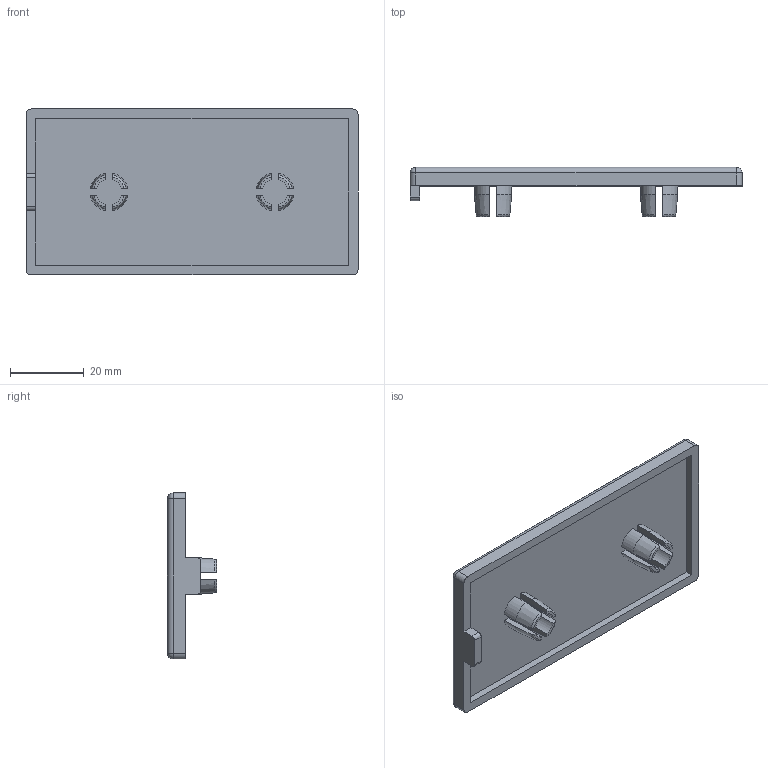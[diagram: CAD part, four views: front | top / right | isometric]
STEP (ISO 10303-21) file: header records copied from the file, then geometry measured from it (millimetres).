
FILE_DESCRIPTION (( 'STEP AP214' ), '1' );
FILE_NAME ('SNSD.30.50.49. Çàãëóøêà òîðöåâàÿ 45x90(E41).STEP', '2014-11-20T10:31:19', ( 'XTreme.ws' ), ( 'XTreme.ws' ), 'SwSTEP 2.0', 'SolidWorks 2014', '' );
FILE_SCHEMA (( 'AUTOMOTIVE_DESIGN' ));
Length unit declared in the file: millimetre
Products named in the file (1): SNSD.30.50.49. Çàãëóøêà òîðöåâàÿ 45x90(E41)
Bounding box: 90 x 13.3 x 45 mm (x, y, z)
Volume: 14042.6 mm3; surface area: 10849 mm2
Topology: 1 solids, 1 shells, 84 faces, 214 edges, 136 vertices
Faces by surface type: plane 38, cylinder 26, cone 8, torus 8, sphere 4
Entity records: 2652 total; most frequent: CARTESIAN_POINT 607, ORIENTED_EDGE 420, DIRECTION 416, EDGE_CURVE 210, AXIS2_PLACEMENT_3D 153, VERTEX_POINT 136, LINE 110, VECTOR 110
